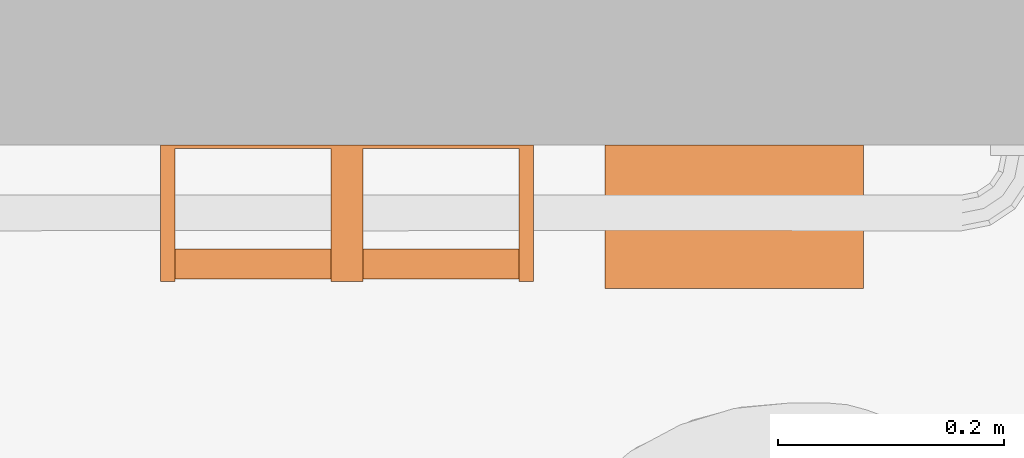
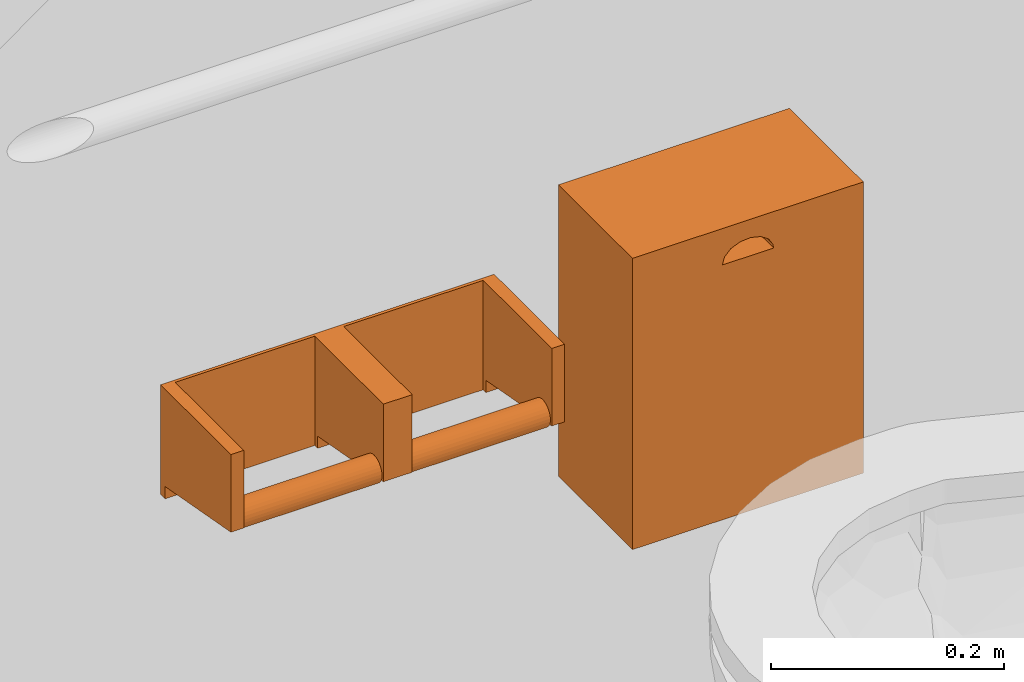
# One storey, part 137 of 142: 2 proxies.
"""IFC2X3 building model written with IfcOpenShell, lengths in feet."""

from ifc_helpers import new_model, entity, si_unit, converted_unit, derived_unit, direction, frame, frame_2d, origin, origin_2d_with_axis, place, context, subcontext, project, spatial, polyline, rectangle, circle, outline, extrude, source, transform, mapped, type_object, type_shapes, element, save


model = new_model("IFC2X3")

# Units and contexts
model_context = context("Model", 3, precision=0.0001, world=origin(), true_north=direction((6.12303176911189e-17, 1.0)))
body_context = subcontext(model_context, "Body", "Model", "MODEL_VIEW")
ifc_project = project(units=[converted_unit("LENGTHUNIT", "FOOT", entity("IfcRatioMeasure", 0.3048), si_unit("LENGTHUNIT", "METRE"), dimensions=[1, 0, 0, 0, 0, 0, 0]), converted_unit("AREAUNIT", "SQUARE FOOT", entity("IfcRatioMeasure", 0.09290304), si_unit("AREAUNIT", "SQUARE_METRE"), dimensions=[2, 0, 0, 0, 0, 0, 0]), converted_unit("VOLUMEUNIT", "CUBIC FOOT", entity("IfcRatioMeasure", 0.028316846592), si_unit("VOLUMEUNIT", "CUBIC_METRE"), dimensions=[3, 0, 0, 0, 0, 0, 0]), converted_unit("PLANEANGLEUNIT", "DEGREE", entity("IfcRatioMeasure", 0.0174532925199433), si_unit("PLANEANGLEUNIT", "RADIAN"), dimensions=[0, 0, 0, 0, 0, 0, 0]), si_unit("MASSUNIT", "GRAM", prefix="KILO"), derived_unit("MASSDENSITYUNIT", [(si_unit("MASSUNIT", "GRAM", prefix="KILO"), 1), (si_unit("LENGTHUNIT", "METRE"), -3)]), si_unit("TIMEUNIT", "SECOND"), si_unit("FREQUENCYUNIT", "HERTZ"), si_unit("THERMODYNAMICTEMPERATUREUNIT", "DEGREE_CELSIUS"), derived_unit("THERMALTRANSMITTANCEUNIT", [(si_unit("MASSUNIT", "GRAM", prefix="KILO"), 1), (si_unit("THERMODYNAMICTEMPERATUREUNIT", "KELVIN"), -1), (si_unit("TIMEUNIT", "SECOND"), -3)]), derived_unit("VOLUMETRICFLOWRATEUNIT", [(si_unit("LENGTHUNIT", "METRE"), 3), (si_unit("TIMEUNIT", "SECOND"), -1)]), si_unit("ELECTRICCURRENTUNIT", "AMPERE"), si_unit("ELECTRICVOLTAGEUNIT", "VOLT"), si_unit("POWERUNIT", "WATT"), si_unit("FORCEUNIT", "NEWTON"), si_unit("ILLUMINANCEUNIT", "LUX"), si_unit("LUMINOUSFLUXUNIT", "LUMEN"), si_unit("LUMINOUSINTENSITYUNIT", "CANDELA"), derived_unit("USERDEFINED", [(si_unit("MASSUNIT", "GRAM", prefix="KILO"), -1), (si_unit("LENGTHUNIT", "METRE"), -2), (si_unit("TIMEUNIT", "SECOND"), 3), (si_unit("LUMINOUSFLUXUNIT", "LUMEN"), 1)]), derived_unit("LINEARVELOCITYUNIT", [(si_unit("LENGTHUNIT", "METRE"), 1), (si_unit("TIMEUNIT", "SECOND"), -1)]), si_unit("PRESSUREUNIT", "PASCAL"), derived_unit("USERDEFINED", [(si_unit("LENGTHUNIT", "METRE"), -2), (si_unit("MASSUNIT", "GRAM", prefix="KILO"), 1), (si_unit("TIMEUNIT", "SECOND"), -2)])], contexts=[model_context])

# Site, building, storey, space
site_placement = place(None, origin())
site = spatial("IfcSite", under=ifc_project, at=site_placement, Name="Default", CompositionType="ELEMENT")
building_placement = place(site_placement, origin())
building = spatial("IfcBuilding", under=site, at=building_placement, Name="OUTPATIENT / PACT CLINIC (Ch. 265)", CompositionType="ELEMENT")
storey_placement = place(building_placement, origin())
storey = spatial("IfcBuildingStorey", under=building, at=storey_placement, Name="LEVEL 1", CompositionType="ELEMENT", Elevation=0.0)
space_placement = place(storey_placement, origin())
space = spatial("IfcSpace", under=storey, at=space_placement, Name="TNPG1", CompositionType="ELEMENT", InteriorOrExteriorSpace="INTERNAL")

# Proxies
building_element_proxy_type_1 = type_object("IfcBuildingElementProxyType", Name="A5090 - Dispenser, Sanitary Napkin, SS, Surface Mounted", PredefinedType="NOTDEFINED")
shared_shape_1 = source(origin(), body_context, "Body", "SweptSolid", [
    extrude(rectangle(XDim=0.75, YDim=0.0833333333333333, at=frame_2d((0.0, -6.93889390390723e-18), x_axis=(1.0, 0.0))), frame((0.0, 0.0416666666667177, 0.87500000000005), z_axis=(0.0, 0.0, 1.0), x_axis=(-1.0, 0.0, 0.0)), (0.0, 0.0, 1.0), 0.125000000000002),
    extrude(outline(polyline([(-0.0828981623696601, -0.378205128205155), (0.0421018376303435, -0.378205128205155), (0.042101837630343, -0.0865384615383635), (0.0166807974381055, -0.0793339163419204), (-0.0043447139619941, -0.0589660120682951), (-0.017339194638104, -0.0289565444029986), (-0.0200557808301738, 0.0055055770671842), (-0.0120247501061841, 0.038461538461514), (0.00536525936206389, 0.0642129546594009), (0.0291073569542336, 0.0783071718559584), (0.0421018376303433, 0.0801282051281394), (0.0421018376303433, 0.371794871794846), (-0.0828981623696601, 0.371794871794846), (-0.0828981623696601, -0.378205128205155)])), frame((-0.00320512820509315, 0.0833333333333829, 0.917101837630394), z_axis=(0.0, 1.0, 0.0), x_axis=(0.0, 0.0, -1.0)), (0.0, 0.0, 1.0), 0.333333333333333),
    extrude(rectangle(XDim=0.749999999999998, YDim=0.416666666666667, at=origin_2d_with_axis()), frame((0.0, 0.208333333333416, 0.0), z_axis=(0.0, 0.0, 1.0), x_axis=(-1.0, 0.0, 0.0)), (0.0, 0.0, 1.0), 0.875000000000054),
])
type_shapes(building_element_proxy_type_1, [shared_shape_1])
proxy_1_placement = place(space_placement, frame((445.009777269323, -876.421422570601, 1.10991304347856), z_axis=(0.0, 0.0, 1.0), x_axis=(-1.0, 0.0, 0.0)))
element("IfcBuildingElementProxy", 1, at=proxy_1_placement, inside=space, type_object=building_element_proxy_type_1, Name="A5090 - Dispenser, Sanitary Napkin, SS, Surface Mounted:A5090 - Dispenser, Sanitary Napkin, SS, Surface Mounted", ObjectType="A5090 - Dispenser, Sanitary Napkin, SS, Surface Mounted", context=body_context, shape_type="MappedRepresentation", body=[
    mapped(shared_shape_1, transform((0.0, 0.0, 0.0), scale=1.0)),
])
building_element_proxy_type_2 = type_object("IfcBuildingElementProxyType", Name="A5200 - Dispenser, Toilet Tissue, SS, 2-Roll, Surface Mntd", PredefinedType="NOTDEFINED")
shared_shape_2 = source(origin(), body_context, "Body", "SweptSolid", [
    extrude(circle(Radius=0.0439072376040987, at=frame_2d((-9.86076131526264e-32, 1.11022302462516e-16), x_axis=(1.0, 0.0))), frame((0.0468750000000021, 0.344872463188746, 0.125668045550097), z_axis=(1.0, 0.0, 0.0), x_axis=(0.0, 0.0, 1.0)), (0.0, 0.0, 1.0), 0.453124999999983),
    extrude(circle(Radius=0.0061848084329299, at=origin_2d_with_axis()), frame((0.0468750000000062, 0.34487246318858, 0.125668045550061), z_axis=(1.0, 0.0, 0.0), x_axis=(0.0, 1.0, 0.0)), (0.0, 0.0, 1.0), 0.453124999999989),
    extrude(circle(Radius=0.0439072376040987, at=frame_2d((1.97215226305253e-31, -2.22044604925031e-16), x_axis=(1.0, 0.0))), frame((-0.500000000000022, 0.344872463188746, 0.125668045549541), z_axis=(1.0, 0.0, 0.0), x_axis=(0.0, 0.0, 1.0)), (0.0, 0.0, 1.0), 0.453124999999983),
    extrude(rectangle(XDim=0.541666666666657, YDim=0.0104166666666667, at=frame_2d((0.0, -4.33680868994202e-19), x_axis=(1.0, 0.0))), frame((0.270833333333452, 0.00520833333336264, 0.0), z_axis=(0.0, 0.0, 1.0), x_axis=(-1.0, 0.0, 0.0)), (0.0, 0.0, 1.0), 0.375668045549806),
    extrude(outline(polyline([(-0.225313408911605, -0.140625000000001), (0.150354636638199, -0.140625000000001), (0.150354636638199, -0.114583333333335), (0.108687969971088, -0.114583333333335), (0.0412295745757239, 0.255208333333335), (-0.225313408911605, 0.255208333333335), (-0.225313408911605, -0.140625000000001)])), frame((0.0, 0.140625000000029, 0.15035463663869), z_axis=(1.0, 0.0, 0.0), x_axis=(0.0, 0.0, -1.0)), (0.0, 0.0, 1.0), 0.0468750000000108),
    extrude(outline(polyline([(-0.225313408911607, -0.140625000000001), (0.150354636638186, -0.140625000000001), (0.150354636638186, -0.114583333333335), (0.108687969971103, -0.114583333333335), (0.0412295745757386, 0.255208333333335), (-0.225313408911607, 0.255208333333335), (-0.225313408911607, -0.140625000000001)])), frame((0.49999999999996, 0.140625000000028, 0.150354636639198), z_axis=(1.0, 0.0, 0.0), x_axis=(0.0, 0.0, -1.0)), (0.0, 0.0, 1.0), 0.0416666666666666),
    extrude(circle(Radius=0.0061848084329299, at=frame_2d((2.46519032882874e-32, -2.77555756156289e-17), x_axis=(1.0, 0.0))), frame((-0.500000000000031, 0.344872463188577, 0.125668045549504), z_axis=(1.0, 0.0, 0.0), x_axis=(0.0, 1.0, 0.0)), (0.0, 0.0, 1.0), 0.453124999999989),
    extrude(rectangle(XDim=0.541666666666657, YDim=0.0104166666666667, at=frame_2d((0.0, 4.33680868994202e-19), x_axis=(1.0, 0.0))), frame((-0.27083333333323, 0.00520833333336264, 0.0), z_axis=(0.0, 0.0, 1.0), x_axis=(-1.0, 0.0, 0.0)), (0.0, 0.0, 1.0), 0.375668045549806),
    extrude(outline(polyline([(-0.225313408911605, -0.140625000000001), (0.150354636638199, -0.140625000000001), (0.150354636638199, -0.114583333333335), (0.108687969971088, -0.114583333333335), (0.041229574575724, 0.255208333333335), (-0.225313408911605, 0.255208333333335), (-0.225313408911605, -0.140625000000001)])), frame((-0.0468750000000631, 0.140625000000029, 0.150354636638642), z_axis=(1.0, 0.0, 0.0), x_axis=(0.0, 0.0, -1.0)), (0.0, 0.0, 1.0), 0.0468750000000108),
    extrude(outline(polyline([(-0.225313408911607, -0.140625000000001), (0.150354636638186, -0.140625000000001), (0.150354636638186, -0.114583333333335), (0.108687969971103, -0.114583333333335), (0.0412295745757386, 0.255208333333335), (-0.225313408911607, 0.255208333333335), (-0.225313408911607, -0.140625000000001)])), frame((-0.541666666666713, 0.140625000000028, 0.150354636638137), z_axis=(1.0, 0.0, 0.0), x_axis=(0.0, 0.0, -1.0)), (0.0, 0.0, 1.0), 0.0416666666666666),
])
type_shapes(building_element_proxy_type_2, [shared_shape_2])
proxy_2_placement = place(space_placement, frame((443.884777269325, -876.421422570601, 1.5), z_axis=(0.0, 0.0, 1.0), x_axis=(-1.0, 0.0, 0.0)))
element("IfcBuildingElementProxy", 2, at=proxy_2_placement, inside=space, type_object=building_element_proxy_type_2, Name="A5200 - Dispenser, Toilet Tissue, SS, 2-Roll, Surface Mntd:A5200 - Dispenser, Toilet Tissue, SS, 2-Roll, Surface Mntd", ObjectType="A5200 - Dispenser, Toilet Tissue, SS, 2-Roll, Surface Mntd", context=body_context, shape_type="MappedRepresentation", body=[
    mapped(shared_shape_2, transform((0.0, 0.0, 0.0), scale=1.0)),
])

save(model, "model.ifc")
